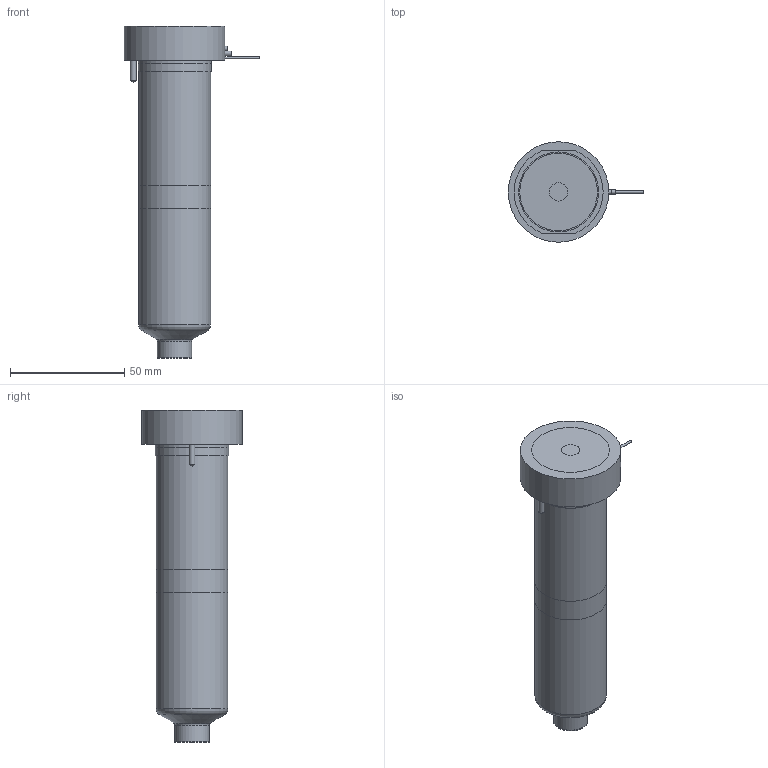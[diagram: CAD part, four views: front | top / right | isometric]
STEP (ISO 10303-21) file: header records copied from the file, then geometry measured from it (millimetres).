
FILE_DESCRIPTION(/* description */ (''),/* implementation_level */ '2;1');
FILE_NAME(/* name */ 'MXTVBE-MXIVBE-MXOVBE19130_200C_b',/* time_stamp */ '2015-08-12T11:26:27+12:00',/* author */ (''),/* organization */ (''),/* preprocessor_version */ 'ST-DEVELOPER v9',/* originating_system */ 'UGS - NX 4.0',/* authorisation */ '');
FILE_SCHEMA (('CONFIG_CONTROL_DESIGN'));
Length unit declared in the file: millimetre
Products named in the file (1): MattC7E5xxf5
Bounding box: 59.25 x 44 x 145.34 mm (x, y, z)
Volume: 205106.8 mm3; surface area: 35192.5 mm2
Topology: 7 solids, 7 shells, 79 faces, 148 edges, 95 vertices
Faces by surface type: plane 35, cylinder 27, cone 9, torus 7, bspline 1
Full cylindrical faces by diameter (mm): 1 x3, 2 x2, 2.5 x2, 3 x1, 8 x1, 14.61 x1, 15.01 x2, 18.3 x1, 25.4 x1, 31.5 x2, 32 x2, 44 x1
Entity records: 1906 total; most frequent: CARTESIAN_POINT 379, DIRECTION 326, ORIENTED_EDGE 214, AXIS2_PLACEMENT_3D 150, EDGE_LOOP 124, EDGE_CURVE 107, VERTEX_POINT 88, ADVANCED_FACE 79
